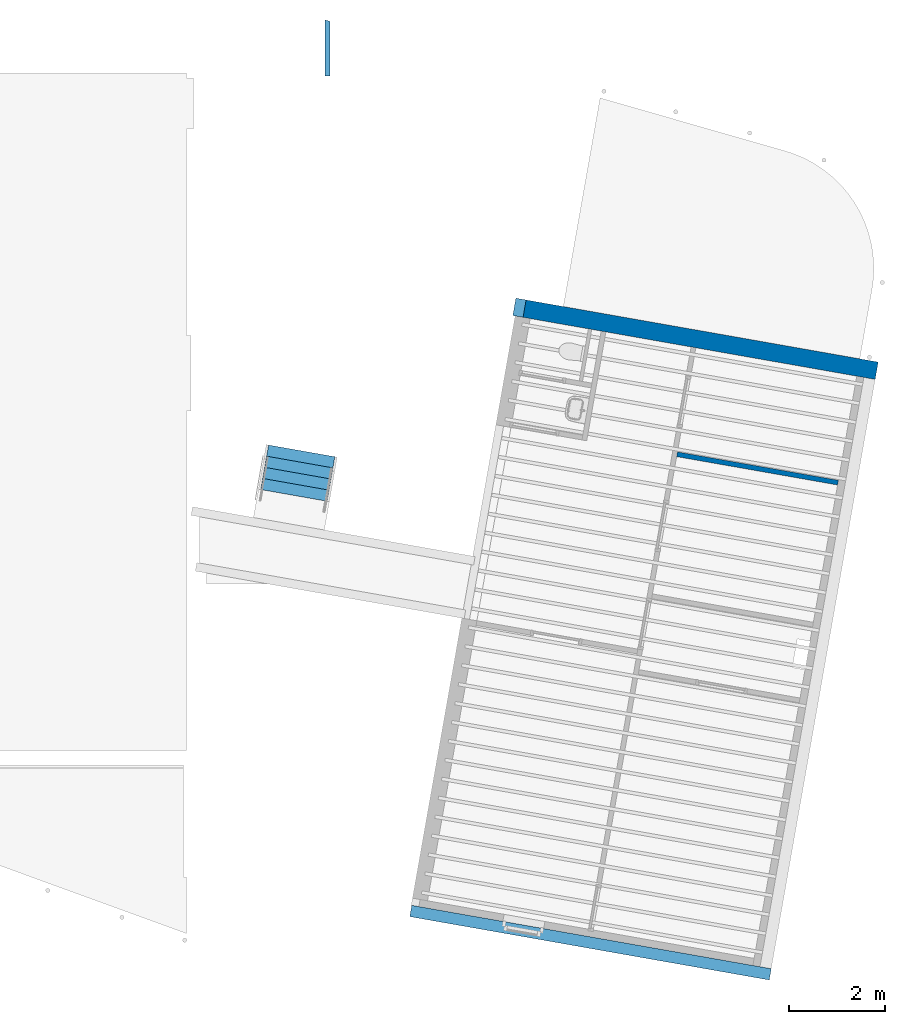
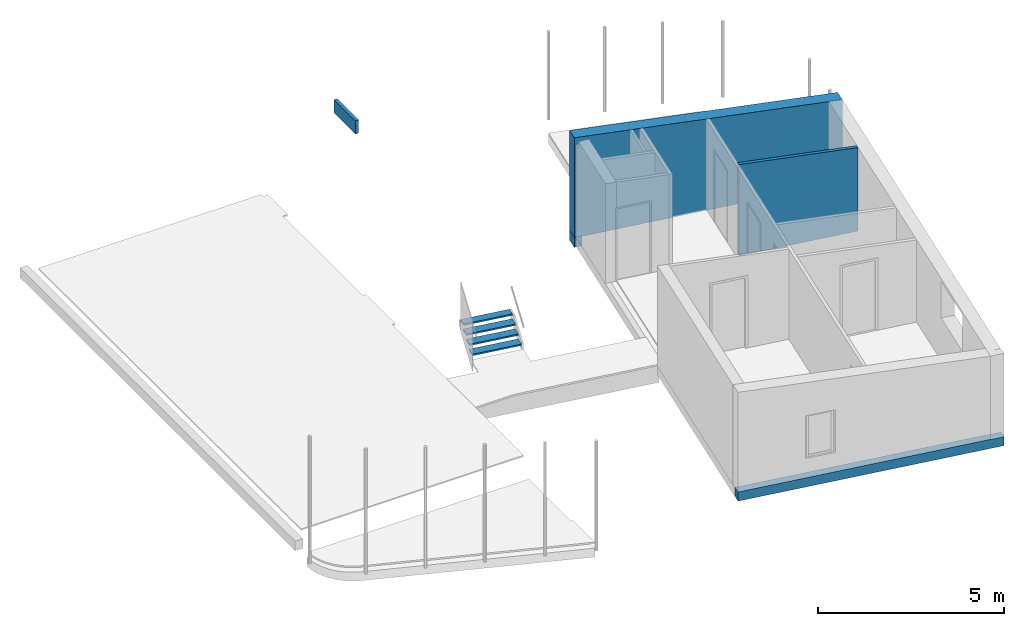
# One storey, part 4 of 7: 5 walls, 1 stair flight, 1 element without a shape of its own.
"""IFC2X3 building model written with IfcOpenShell, lengths in millimetres."""

from ifc_helpers import new_model, entity, si_unit, converted_unit, derived_unit, direction, frame, frame_2d, origin, origin_2d_with_axis, place, context, subcontext, project, spatial, polyline, rectangle, outline, extrude, clip, halfspace, bounded_halfspace, faceted_brep, material, material_list, layer, layer_set, layer_usage, type_object, element, aggregate, save


model = new_model("IFC2X3")

# Units and contexts
model_context = context("Model", 3, precision=0.01, world=origin(), true_north=direction((6.12303176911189e-17, 1.0)))
body_context = subcontext(model_context, "Body", "Model", "MODEL_VIEW")
ifc_project = project(units=[si_unit("LENGTHUNIT", "METRE", prefix="MILLI"), si_unit("AREAUNIT", "SQUARE_METRE"), si_unit("VOLUMEUNIT", "CUBIC_METRE"), converted_unit("PLANEANGLEUNIT", "DEGREE", entity("IfcRatioMeasure", 0.0174532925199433), si_unit("PLANEANGLEUNIT", "RADIAN"), dimensions=[0, 0, 0, 0, 0, 0, 0]), si_unit("MASSUNIT", "GRAM", prefix="KILO"), derived_unit("MASSDENSITYUNIT", [(si_unit("MASSUNIT", "GRAM", prefix="KILO"), 1), (si_unit("LENGTHUNIT", "METRE"), -3)]), derived_unit("MOMENTOFINERTIAUNIT", [(si_unit("LENGTHUNIT", "METRE"), 4)]), si_unit("TIMEUNIT", "SECOND"), si_unit("FREQUENCYUNIT", "HERTZ"), si_unit("THERMODYNAMICTEMPERATUREUNIT", "DEGREE_CELSIUS"), derived_unit("THERMALTRANSMITTANCEUNIT", [(si_unit("MASSUNIT", "GRAM", prefix="KILO"), 1), (si_unit("THERMODYNAMICTEMPERATUREUNIT", "KELVIN"), -1), (si_unit("TIMEUNIT", "SECOND"), -3)]), derived_unit("VOLUMETRICFLOWRATEUNIT", [(si_unit("LENGTHUNIT", "METRE"), 3), (si_unit("TIMEUNIT", "SECOND"), -1)]), si_unit("ELECTRICCURRENTUNIT", "AMPERE"), si_unit("ELECTRICVOLTAGEUNIT", "VOLT"), si_unit("POWERUNIT", "WATT"), si_unit("FORCEUNIT", "NEWTON", prefix="KILO"), si_unit("ILLUMINANCEUNIT", "LUX"), si_unit("LUMINOUSFLUXUNIT", "LUMEN"), si_unit("LUMINOUSINTENSITYUNIT", "CANDELA"), derived_unit("USERDEFINED", [(si_unit("MASSUNIT", "GRAM", prefix="KILO"), -1), (si_unit("LENGTHUNIT", "METRE"), -2), (si_unit("TIMEUNIT", "SECOND"), 3), (si_unit("LUMINOUSFLUXUNIT", "LUMEN"), 1)]), derived_unit("LINEARVELOCITYUNIT", [(si_unit("LENGTHUNIT", "METRE"), 1), (si_unit("TIMEUNIT", "SECOND"), -1)]), si_unit("PRESSUREUNIT", "PASCAL"), derived_unit("USERDEFINED", [(si_unit("LENGTHUNIT", "METRE"), -2), (si_unit("MASSUNIT", "GRAM", prefix="KILO"), 1), (si_unit("TIMEUNIT", "SECOND"), -2)]), derived_unit("LINEARFORCEUNIT", [(si_unit("MASSUNIT", "GRAM", prefix="KILO"), 1), (si_unit("LENGTHUNIT", "METRE"), 1), (si_unit("TIMEUNIT", "SECOND"), -2), (si_unit("LENGTHUNIT", "METRE"), -1)]), derived_unit("PLANARFORCEUNIT", [(si_unit("MASSUNIT", "GRAM", prefix="KILO"), 1), (si_unit("LENGTHUNIT", "METRE"), 1), (si_unit("TIMEUNIT", "SECOND"), -2), (si_unit("LENGTHUNIT", "METRE"), -2)])], contexts=[model_context])

# Site, building, storey
site_placement = place(None, origin())
site = spatial("IfcSite", under=ifc_project, at=site_placement, Name="<Kadaster Gemeente>;<Kadaster nummer>;<Kadaster sectie>", CompositionType="ELEMENT")
building_placement = place(site_placement, origin())
building = spatial("IfcBuilding", under=site, at=building_placement, Name="JRCZ Middelburg", CompositionType="ELEMENT")
storey_placement = place(building_placement, frame((0.0, 0.0, 3000.0)))
storey = spatial("IfcBuildingStorey", under=building, at=storey_placement, Name="01 eerste verdieping", CompositionType="ELEMENT", Elevation=3000.0)

# Walls
ifc_material_1 = material(Name="RBM_n7_isolatie_hsb_100")
ifc_layer_1 = layer(ifc_material_1, 100.0)
ifc_layer_set_1 = layer_set([ifc_layer_1], Name="Basic Wall:22_WA_metalstud_binnenwand_100mm")
ifc_layer_usage_1 = layer_usage(ifc_layer_set_1, "AXIS2", "NEGATIVE", 50.0)
wall_type_1 = type_object("IfcWallType", Name="Basic Wall:22_WA_metalstud_binnenwand_100mm", PredefinedType="STANDARD", material=ifc_layer_set_1)
wall_1_placement = place(storey_placement, frame((30605.5416412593, 15721.1025888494, -45.0), z_axis=(0.0, 0.0, 1.0), x_axis=(-0.984807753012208, 0.173648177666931, 0.0)))
element("IfcWallStandardCase", 1, at=wall_1_placement, inside=storey, type_object=wall_type_1, material=ifc_layer_usage_1, Name="Basic Wall:22_WA_metalstud_binnenwand_100mm", ObjectType="Basic Wall:22_WA_metalstud_binnenwand_100mm", context=body_context, shape_type="Clipping", body=[
    clip(extrude(rectangle(XDim=3400.00000000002, YDim=99.9999999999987, at=frame_2d((1700.00000000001, -3.5527136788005e-14), x_axis=(-1.0, 0.0))), origin(), (0.0, 0.0, 1.0), 2990.3512620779), bounded_halfspace(frame((0.0, -50.0, 2735.3512620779), z_axis=(0.0747899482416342, 0.0, -0.997199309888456), x_axis=(0.997199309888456, 0.0, 0.0747899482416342)), True, frame((0.0, -50.0, 2735.3512620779)), polyline([(0.0, 0.0), (3400.0, 0.0), (3400.0, 100.0), (0.0, 100.0), (0.0, 0.0)]))),
])
ifc_material_2 = material(Name="gevel antraciet")
ifc_layer_2 = layer(ifc_material_2, 8.0)
ifc_material_3 = material(Name="ISR_Luchtspouw")
ifc_layer_3 = layer(ifc_material_3, 35.0)
ifc_layer_4 = layer(ifc_material_3, 35.0)
ifc_material_4 = material(Name="RBM_n7_isolatie_hsb_270")
ifc_layer_5 = layer(ifc_material_4, 138.0)
ifc_layer_set_2 = layer_set([ifc_layer_2, ifc_layer_3, ifc_layer_4, ifc_layer_5], Name="Basic Wall:21_RBM_WA_dakrand/pas strook_rockpanel")
ifc_layer_usage_2 = layer_usage(ifc_layer_set_2, "AXIS2", "NEGATIVE", 108.0)
wall_type_2 = type_object("IfcWallType", Name="Basic Wall:21_RBM_WA_dakrand/pas strook_rockpanel", PredefinedType="STANDARD", material=ifc_layer_set_2)
wall_2_placement = place(storey_placement, frame((23946.9961449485, 19179.8936888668, -355.0), z_axis=(0.0, 0.0, 1.0), x_axis=(0.173648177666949, 0.984807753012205, 0.0)))
element("IfcWallStandardCase", 2, at=wall_2_placement, inside=storey, type_object=wall_type_2, material=ifc_layer_usage_2, Name="Basic Wall:21_RBM_WA_dakrand/pas strook_rockpanel", ObjectType="Basic Wall:21_RBM_WA_dakrand/pas strook_rockpanel", context=body_context, shape_type="SweptSolid", body=[
    extrude(rectangle(XDim=365.999999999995, YDim=216.000000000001, at=frame_2d((182.999999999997, -4.61852778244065e-13), x_axis=(-1.0, 0.0))), origin(), (0.0, 0.0, 1.0), 320.0),
])
ifc_layer_6 = layer(ifc_material_2, 8.0)
ifc_layer_7 = layer(ifc_material_3, 35.0)
ifc_layer_8 = layer(ifc_material_3, 35.0)
ifc_layer_9 = layer(ifc_material_4, 270.0)
ifc_material_5 = material(Name="RBM_i4_multiplex_beplating")
ifc_layer_10 = layer(ifc_material_5, 18.0)
ifc_layer_set_3 = layer_set([ifc_layer_6, ifc_layer_7, ifc_layer_8, ifc_layer_9, ifc_layer_10], Name="Basic Wall:21_RBM_WA_hsb_270mm_ rockpanel")
ifc_layer_usage_3 = layer_usage(ifc_layer_set_3, "AXIS2", "NEGATIVE", 183.0)
wall_type_3 = type_object("IfcWallType", Name="Basic Wall:21_RBM_WA_hsb_270mm_ rockpanel", PredefinedType="STANDARD", material=ifc_layer_set_3)
wall_3_placement = place(storey_placement, frame((23872.4145241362, 19378.8675108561, -45.0), z_axis=(0.0, 0.0, 1.0), x_axis=(0.984807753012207, -0.173648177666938, 0.0)))
element("IfcWallStandardCase", 3, at=wall_3_placement, inside=storey, type_object=wall_type_3, material=ifc_layer_usage_3, Name="Basic Wall:21_RBM_WA_hsb_270mm_ rockpanel", ObjectType="Basic Wall:21_RBM_WA_hsb_270mm_ rockpanel", context=body_context, shape_type="Clipping", body=[
    clip(clip(clip(extrude(rectangle(XDim=7654.00000000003, YDim=366.0, at=frame_2d((3827.00000000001, 1.20792265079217e-12), x_axis=(-1.0, 0.0))), origin(), (0.0, 0.0, 1.0), 3281.16232696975), bounded_halfspace(frame((7554.0, 183.0, 545.0), z_axis=(-1.0, 0.0, 0.0), x_axis=(0.0, -1.0, 0.0)), True, frame((7554.0, 183.0, 545.0), z_axis=(-1.0, 0.0, 0.0), x_axis=(0.0, -1.0, 0.0)), polyline([(0.0, 0.0), (0.0, -545.0), (366.0, -545.0), (366.0, 0.0), (0.0, 0.0)]))), bounded_halfspace(frame((7554.0, -183.0, 545.0)), True, frame((7554.0, -183.0, 545.0)), polyline([(0.0, 0.0), (100.0, 0.0), (100.0, 366.0), (0.0, 366.0), (0.0, 0.0)]))), halfspace(frame((7654.0, 183.0, 2695.96881615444), z_axis=(0.0762334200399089, 0.0, 0.997089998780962), x_axis=(0.0, 1.0, 0.0)), False)),
])
ifc_material_6 = material(Name="Gevelafwerking")
ifc_layer_11 = layer(ifc_material_6, 30.0)
ifc_layer_12 = layer(ifc_material_3, 35.0)
ifc_layer_13 = layer(ifc_material_3, 35.0)
ifc_material_7 = material(Name="RBM_n7_isolatie_hsb_invulling")
ifc_layer_14 = layer(ifc_material_7, 138.0)
ifc_layer_set_4 = layer_set([ifc_layer_11, ifc_layer_12, ifc_layer_13, ifc_layer_14], Name="Basic Wall:21_RBM_WA_passtrook_BU_houten bekleding")
wall_type_4 = type_object("IfcWallType", Name="Basic Wall:21_RBM_WA_passtrook_BU_houten bekleding", PredefinedType="STANDARD", material=ifc_layer_set_4)
wall_4_placement = place(storey_placement, frame((29195.7715040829, 5491.49589258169, -334.0), z_axis=(0.0, 0.0, 1.0), x_axis=(-0.984807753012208, 0.173648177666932, 0.0)))
element("IfcWall", 4, at=wall_4_placement, inside=storey, type_object=wall_type_4, Name="Basic Wall:21_RBM_WA_passtrook_BU_houten bekleding", ObjectType="Basic Wall:21_RBM_WA_passtrook_BU_houten bekleding", context=body_context, shape_type="Brep", body=[
    faceted_brep([(0.0, -119.0, 0.0), (238.0, -119.0, 0.0), (7444.0, -119.0, 0.0), (7594.0, -119.0, 0.0), (7594.0, -119.0, 299.0), (7444.0, -119.0, 299.0), (388.0, -119.0, 299.0), (388.0, -119.0, 289.0), (238.0, -119.0, 289.0), (0.0, -119.0, 289.0), (7594.0, 119.0, 0.0), (388.0, 119.0, 0.0), (0.0, 119.0, 0.0), (0.0, 119.0, 289.0), (388.0, 119.0, 289.0), (388.0, 119.0, 299.0), (7594.0, 119.0, 299.0)], [[[0, 1, 2, 3, 4, 5, 6, 7, 8, 9]], [[10, 11, 12, 13, 14, 15, 16]], [[3, 10, 16, 4]], [[3, 2, 1, 0, 12, 11, 10]], [[12, 0, 9, 13]], [[14, 7, 6, 15]], [[14, 13, 9, 8, 7]], [[6, 5, 4, 16, 15]]]),
])
ifc_layer_15 = layer(ifc_material_6, 30.0)
ifc_layer_16 = layer(ifc_material_3, 35.0)
ifc_layer_17 = layer(ifc_material_3, 35.0)
ifc_layer_set_5 = layer_set([ifc_layer_15, ifc_layer_16, ifc_layer_17], Name="Basic Wall:20_RBM_WA_HSB_wand-100mm_gevelafwerking")
ifc_layer_usage_4 = layer_usage(ifc_layer_set_5, "AXIS2", "NEGATIVE", 50.0)
wall_type_5 = type_object("IfcWallType", Name="Basic Wall:20_RBM_WA_HSB_wand-100mm_gevelafwerking", PredefinedType="STANDARD", material=ifc_layer_set_5)
wall_5_placement = place(storey_placement, frame((19987.632860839, 25346.5306551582, 1700.0), z_axis=(0.0, 0.0, 1.0), x_axis=(0.0, -1.0, 0.0)))
element("IfcWallStandardCase", 5, at=wall_5_placement, inside=storey, type_object=wall_type_5, material=ifc_layer_usage_4, Name="Basic Wall:20_RBM_WA_HSB_wand-100mm_gevelafwerking", ObjectType="Basic Wall:20_RBM_WA_HSB_wand-100mm_gevelafwerking", context=body_context, shape_type="SweptSolid", body=[
    extrude(outline(polyline([(1162.53065515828, -50.0), (1162.53065515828, 50.0), (28.6746916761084, 50.0), (0.0, -50.0), (1162.53065515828, -50.0)])), origin(), (0.0, 0.0, 1.0), 430.0),
])

# Stair, stair flight
stair_placement = place(storey_placement, origin())
stair = element("IfcStair", 6, at=stair_placement, inside=storey, Name="Assembled Stair:Stair", ObjectType="Assembled Stair:RBM_ST_houten trap", ShapeType="STRAIGHT_RUN_STAIR")
ifc_material_8 = material(Name="traphout")
ifc_material_list = material_list([ifc_material_8, ifc_material_8, ifc_material_8, ifc_material_8])
stair_flight_type = type_object("IfcStairFlightType", Name="Non-Monolithic Run:RBM_ST_samengestelde houten trede", PredefinedType="STRAIGHT")
stair_flight_placement = place(stair_placement, origin())
stair_flight = element("IfcStairFlight", 7, at=stair_flight_placement, type_object=stair_flight_type, material=ifc_material_list, Name="Assembled Stair:Stair:1659339 Run 1", ObjectType="Non-Monolithic Run:RBM_ST_samengestelde houten trede", NumberOfRiser=4, NumberOfTreads=4, RiserHeight=0.574146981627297, TreadLength=0.770997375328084, context=body_context, shape_type="SweptSolid", body=[
    extrude(rectangle(XDim=259.999999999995, YDim=1400.0, at=frame_2d((4.2774672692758e-12, 7.38964445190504e-13), x_axis=(1.0, 0.0))), frame((19308.0709704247, 15584.0421118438, 125.0), z_axis=(0.0, 0.0, 1.0), x_axis=(-0.17348034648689, -0.984837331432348, 0.0)), (0.0, 0.0, 1.0), 50.0),
    extrude(rectangle(XDim=260.000000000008, YDim=1400.0, at=frame_2d((-4.64694949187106e-12, 1.4210854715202e-12), x_axis=(1.0, 0.0))), frame((19348.8388518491, 15815.4788847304, 300.0), z_axis=(0.0, 0.0, 1.0), x_axis=(-0.173480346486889, -0.984837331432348, 0.0)), (0.0, 0.0, 1.0), 50.0),
    extrude(rectangle(XDim=260.000000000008, YDim=1400.0, at=frame_2d((-1.94688709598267e-12, -1.4210854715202e-12), x_axis=(1.0, 0.0))), frame((19389.6067332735, 16046.915657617, 475.0), z_axis=(0.0, 0.0, 1.0), x_axis=(-0.173480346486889, -0.984837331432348, 0.0)), (0.0, 0.0, 1.0), 50.0),
    extrude(rectangle(XDim=234.999999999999, YDim=1400.0, at=origin_2d_with_axis()), frame((19428.2061103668, 16266.0419638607, 650.0), z_axis=(0.0, 0.0, 1.0), x_axis=(-0.173480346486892, -0.984837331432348, 0.0)), (0.0, 0.0, 1.0), 50.0),
])
aggregate(stair, [stair_flight])

save(model, "model.ifc")
